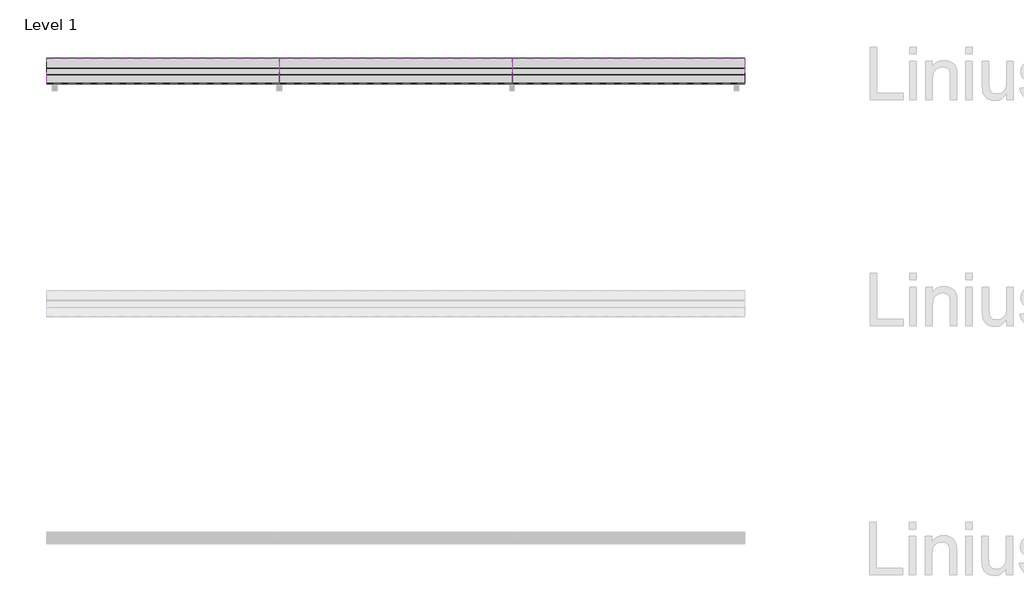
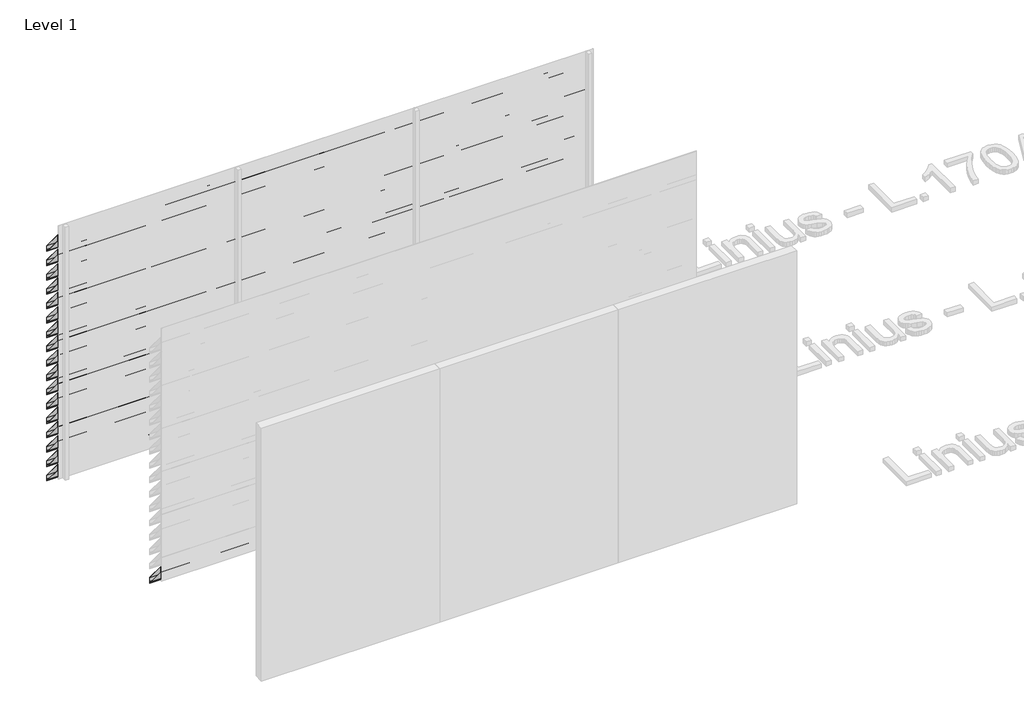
# One storey, part 35 of 121: 52 proxies.
"""IFC4 building model written with IfcOpenShell, lengths in millimetres."""

from ifc_helpers import new_model, si_unit, frame, origin, place, context, project, spatial, polyline, outline, extrude, element, save

model = new_model("IFC4")

# Units and contexts
model_context = context("Model", 3, world=origin())
ifc_project = project(units=[si_unit("LENGTHUNIT", "METRE", prefix="MILLI")], contexts=[model_context])

# Site, building, storey
site = spatial("IfcSite", under=ifc_project)
building = spatial("IfcBuilding", under=site)
storey = spatial("IfcBuildingStorey", under=building, Name="Level 1", Elevation=0.0)

# Proxies
placement = place(None, origin())
element("IfcBuildingElementProxy", 1, Name="Wall Sweeps", at=placement, inside=storey, context=model_context, shape_type="SweptSolid", body=[
    extrude(outline(polyline([(36705.0540136, 2631.0), (36705.0540136, 2562.0), (36702.5540136, 2563.1657691), (36702.5540136, 2576.7059843), (36685.8041465, 2596.6676986), (36675.1189071, 2596.6676986), (36483.0540136, 2825.5617253), (36483.0540136, 2890.0), (36487.7272091, 2890.0), (36705.0540136, 2631.0)]), holes=[polyline([(36486.8412246, 2888.1), (36484.9540136, 2888.1), (36484.9540136, 2826.2532688), (36676.0048916, 2598.5676986), (36686.6901311, 2598.5676986), (36703.1540136, 2578.9468074), (36703.1540136, 2630.3084566), (36486.8412246, 2888.1)])]), frame((466.6208097, 0.0, 0.0), z_axis=(1.0, 0.0, 0.0), x_axis=(0.0, 1.0, 0.0)), (0.0, 0.0, 1.0), 2000.0),
])
element("IfcBuildingElementProxy", 2, Name="Wall Sweeps", at=placement, inside=storey, context=model_context, shape_type="SweptSolid", body=[
    extrude(outline(polyline([(36705.0540136, 2461.0), (36705.0540136, 2392.0), (36702.5540136, 2393.1657691), (36702.5540136, 2406.7059843), (36685.8041465, 2426.6676986), (36675.1189071, 2426.6676986), (36483.0540136, 2655.5617253), (36483.0540136, 2720.0), (36487.7272091, 2720.0), (36705.0540136, 2461.0)]), holes=[polyline([(36486.8412246, 2718.1), (36484.9540136, 2718.1), (36484.9540136, 2656.2532688), (36676.0048916, 2428.5676986), (36686.6901311, 2428.5676986), (36703.1540136, 2408.9468074), (36703.1540136, 2460.3084566), (36486.8412246, 2718.1)])]), frame((466.6208097, 0.0, 0.0), z_axis=(1.0, 0.0, 0.0), x_axis=(0.0, 1.0, 0.0)), (0.0, 0.0, 1.0), 2000.0),
])
element("IfcBuildingElementProxy", 3, Name="Wall Sweeps", at=placement, inside=storey, context=model_context, shape_type="SweptSolid", body=[
    extrude(outline(polyline([(36705.0540136, 2291.0), (36705.0540136, 2222.0), (36702.5540136, 2223.1657691), (36702.5540136, 2236.7059843), (36685.8041465, 2256.6676986), (36675.1189071, 2256.6676986), (36483.0540136, 2485.5617253), (36483.0540136, 2550.0), (36487.7272091, 2550.0), (36705.0540136, 2291.0)]), holes=[polyline([(36486.8412246, 2548.1), (36484.9540136, 2548.1), (36484.9540136, 2486.2532688), (36676.0048916, 2258.5676986), (36686.6901311, 2258.5676986), (36703.1540136, 2238.9468074), (36703.1540136, 2290.3084566), (36486.8412246, 2548.1)])]), frame((466.6208097, 0.0, 0.0), z_axis=(1.0, 0.0, 0.0), x_axis=(0.0, 1.0, 0.0)), (0.0, 0.0, 1.0), 2000.0),
])
element("IfcBuildingElementProxy", 4, Name="Wall Sweeps", at=placement, inside=storey, context=model_context, shape_type="SweptSolid", body=[
    extrude(outline(polyline([(36705.0540136, 2121.0), (36705.0540136, 2052.0), (36702.5540136, 2053.1657691), (36702.5540136, 2066.7059843), (36685.8041465, 2086.6676986), (36675.1189071, 2086.6676986), (36483.0540136, 2315.5617253), (36483.0540136, 2380.0), (36487.7272091, 2380.0), (36705.0540136, 2121.0)]), holes=[polyline([(36486.8412246, 2378.1), (36484.9540136, 2378.1), (36484.9540136, 2316.2532688), (36676.0048916, 2088.5676986), (36686.6901311, 2088.5676986), (36703.1540136, 2068.9468074), (36703.1540136, 2120.3084566), (36486.8412246, 2378.1)])]), frame((466.6208097, 0.0, 0.0), z_axis=(1.0, 0.0, 0.0), x_axis=(0.0, 1.0, 0.0)), (0.0, 0.0, 1.0), 2000.0),
])
element("IfcBuildingElementProxy", 5, Name="Wall Sweeps", at=placement, inside=storey, context=model_context, shape_type="SweptSolid", body=[
    extrude(outline(polyline([(36705.0540136, 1951.0), (36705.0540136, 1882.0), (36702.5540136, 1883.1657691), (36702.5540136, 1896.7059843), (36685.8041465, 1916.6676986), (36675.1189071, 1916.6676986), (36483.0540136, 2145.5617253), (36483.0540136, 2210.0), (36487.7272091, 2210.0), (36705.0540136, 1951.0)]), holes=[polyline([(36486.8412246, 2208.1), (36484.9540136, 2208.1), (36484.9540136, 2146.2532688), (36676.0048916, 1918.5676986), (36686.6901311, 1918.5676986), (36703.1540136, 1898.9468074), (36703.1540136, 1950.3084566), (36486.8412246, 2208.1)])]), frame((466.6208097, 0.0, 0.0), z_axis=(1.0, 0.0, 0.0), x_axis=(0.0, 1.0, 0.0)), (0.0, 0.0, 1.0), 2000.0),
])
element("IfcBuildingElementProxy", 6, Name="Wall Sweeps", at=placement, inside=storey, context=model_context, shape_type="SweptSolid", body=[
    extrude(outline(polyline([(36705.0540136, 1781.0), (36705.0540136, 1712.0), (36702.5540136, 1713.1657691), (36702.5540136, 1726.7059843), (36685.8041465, 1746.6676986), (36675.1189071, 1746.6676986), (36483.0540136, 1975.5617253), (36483.0540136, 2040.0), (36487.7272091, 2040.0), (36705.0540136, 1781.0)]), holes=[polyline([(36486.8412246, 2038.1), (36484.9540136, 2038.1), (36484.9540136, 1976.2532688), (36676.0048916, 1748.5676986), (36686.6901311, 1748.5676986), (36703.1540136, 1728.9468074), (36703.1540136, 1780.3084566), (36486.8412246, 2038.1)])]), frame((466.6208097, 0.0, 0.0), z_axis=(1.0, 0.0, 0.0), x_axis=(0.0, 1.0, 0.0)), (0.0, 0.0, 1.0), 2000.0),
])
element("IfcBuildingElementProxy", 7, Name="Wall Sweeps", at=placement, inside=storey, context=model_context, shape_type="SweptSolid", body=[
    extrude(outline(polyline([(36705.0540136, 1611.0), (36705.0540136, 1542.0), (36702.5540136, 1543.1657691), (36702.5540136, 1556.7059843), (36685.8041465, 1576.6676986), (36675.1189071, 1576.6676986), (36483.0540136, 1805.5617253), (36483.0540136, 1870.0), (36487.7272091, 1870.0), (36705.0540136, 1611.0)]), holes=[polyline([(36486.8412246, 1868.1), (36484.9540136, 1868.1), (36484.9540136, 1806.2532688), (36676.0048916, 1578.5676986), (36686.6901311, 1578.5676986), (36703.1540136, 1558.9468074), (36703.1540136, 1610.3084566), (36486.8412246, 1868.1)])]), frame((466.6208097, 0.0, 0.0), z_axis=(1.0, 0.0, 0.0), x_axis=(0.0, 1.0, 0.0)), (0.0, 0.0, 1.0), 2000.0),
])
element("IfcBuildingElementProxy", 8, Name="Wall Sweeps", at=placement, inside=storey, context=model_context, shape_type="SweptSolid", body=[
    extrude(outline(polyline([(36705.0540136, 1441.0), (36705.0540136, 1372.0), (36702.5540136, 1373.1657691), (36702.5540136, 1386.7059843), (36685.8041465, 1406.6676986), (36675.1189071, 1406.6676986), (36483.0540136, 1635.5617253), (36483.0540136, 1700.0), (36487.7272091, 1700.0), (36705.0540136, 1441.0)]), holes=[polyline([(36486.8412246, 1698.1), (36484.9540136, 1698.1), (36484.9540136, 1636.2532688), (36676.0048916, 1408.5676986), (36686.6901311, 1408.5676986), (36703.1540136, 1388.9468074), (36703.1540136, 1440.3084566), (36486.8412246, 1698.1)])]), frame((466.6208097, 0.0, 0.0), z_axis=(1.0, 0.0, 0.0), x_axis=(0.0, 1.0, 0.0)), (0.0, 0.0, 1.0), 2000.0),
])
element("IfcBuildingElementProxy", 9, Name="Wall Sweeps", at=placement, inside=storey, context=model_context, shape_type="SweptSolid", body=[
    extrude(outline(polyline([(36705.0540136, 1271.0), (36705.0540136, 1202.0), (36702.5540136, 1203.1657691), (36702.5540136, 1216.7059843), (36685.8041465, 1236.6676986), (36675.1189071, 1236.6676986), (36483.0540136, 1465.5617253), (36483.0540136, 1530.0), (36487.7272091, 1530.0), (36705.0540136, 1271.0)]), holes=[polyline([(36486.8412246, 1528.1), (36484.9540136, 1528.1), (36484.9540136, 1466.2532688), (36676.0048916, 1238.5676986), (36686.6901311, 1238.5676986), (36703.1540136, 1218.9468074), (36703.1540136, 1270.3084566), (36486.8412246, 1528.1)])]), frame((466.6208097, 0.0, 0.0), z_axis=(1.0, 0.0, 0.0), x_axis=(0.0, 1.0, 0.0)), (0.0, 0.0, 1.0), 2000.0),
])
element("IfcBuildingElementProxy", 10, Name="Wall Sweeps", at=placement, inside=storey, context=model_context, shape_type="SweptSolid", body=[
    extrude(outline(polyline([(36705.0540136, 1101.0), (36705.0540136, 1032.0), (36702.5540136, 1033.1657691), (36702.5540136, 1046.7059843), (36685.8041465, 1066.6676986), (36675.1189071, 1066.6676986), (36483.0540136, 1295.5617253), (36483.0540136, 1360.0), (36487.7272091, 1360.0), (36705.0540136, 1101.0)]), holes=[polyline([(36486.8412246, 1358.1), (36484.9540136, 1358.1), (36484.9540136, 1296.2532688), (36676.0048916, 1068.5676986), (36686.6901311, 1068.5676986), (36703.1540136, 1048.9468074), (36703.1540136, 1100.3084566), (36486.8412246, 1358.1)])]), frame((466.6208097, 0.0, 0.0), z_axis=(1.0, 0.0, 0.0), x_axis=(0.0, 1.0, 0.0)), (0.0, 0.0, 1.0), 2000.0),
])
element("IfcBuildingElementProxy", 11, Name="Wall Sweeps", at=placement, inside=storey, context=model_context, shape_type="SweptSolid", body=[
    extrude(outline(polyline([(36705.0540136, 931.0), (36705.0540136, 862.0), (36702.5540136, 863.1657691), (36702.5540136, 876.7059843), (36685.8041465, 896.6676986), (36675.1189071, 896.6676986), (36483.0540136, 1125.5617253), (36483.0540136, 1190.0), (36487.7272091, 1190.0), (36705.0540136, 931.0)]), holes=[polyline([(36486.8412246, 1188.1), (36484.9540136, 1188.1), (36484.9540136, 1126.2532688), (36676.0048916, 898.5676986), (36686.6901311, 898.5676986), (36703.1540136, 878.9468074), (36703.1540136, 930.3084566), (36486.8412246, 1188.1)])]), frame((466.6208097, 0.0, 0.0), z_axis=(1.0, 0.0, 0.0), x_axis=(0.0, 1.0, 0.0)), (0.0, 0.0, 1.0), 2000.0),
])
element("IfcBuildingElementProxy", 12, Name="Wall Sweeps", at=placement, inside=storey, context=model_context, shape_type="SweptSolid", body=[
    extrude(outline(polyline([(36705.0540136, 761.0), (36705.0540136, 692.0), (36702.5540136, 693.1657691), (36702.5540136, 706.7059843), (36685.8041465, 726.6676986), (36675.1189071, 726.6676986), (36483.0540136, 955.5617253), (36483.0540136, 1020.0), (36487.7272091, 1020.0), (36705.0540136, 761.0)]), holes=[polyline([(36486.8412246, 1018.1), (36484.9540136, 1018.1), (36484.9540136, 956.2532688), (36676.0048916, 728.5676986), (36686.6901311, 728.5676986), (36703.1540136, 708.9468074), (36703.1540136, 760.3084566), (36486.8412246, 1018.1)])]), frame((466.6208097, 0.0, 0.0), z_axis=(1.0, 0.0, 0.0), x_axis=(0.0, 1.0, 0.0)), (0.0, 0.0, 1.0), 2000.0),
])
element("IfcBuildingElementProxy", 13, Name="Wall Sweeps", at=placement, inside=storey, context=model_context, shape_type="SweptSolid", body=[
    extrude(outline(polyline([(36705.0540136, 591.0), (36705.0540136, 522.0), (36702.5540136, 523.1657691), (36702.5540136, 536.7059843), (36685.8041465, 556.6676986), (36675.1189071, 556.6676986), (36483.0540136, 785.5617253), (36483.0540136, 850.0), (36487.7272091, 850.0), (36705.0540136, 591.0)]), holes=[polyline([(36486.8412246, 848.1), (36484.9540136, 848.1), (36484.9540136, 786.2532688), (36676.0048916, 558.5676986), (36686.6901311, 558.5676986), (36703.1540136, 538.9468074), (36703.1540136, 590.3084566), (36486.8412246, 848.1)])]), frame((466.6208097, 0.0, 0.0), z_axis=(1.0, 0.0, 0.0), x_axis=(0.0, 1.0, 0.0)), (0.0, 0.0, 1.0), 2000.0),
])
element("IfcBuildingElementProxy", 14, Name="Wall Sweeps", at=placement, inside=storey, context=model_context, shape_type="SweptSolid", body=[
    extrude(outline(polyline([(36705.0540136, 421.0), (36705.0540136, 352.0), (36702.5540136, 353.1657691), (36702.5540136, 366.7059843), (36685.8041465, 386.6676986), (36675.1189071, 386.6676986), (36483.0540136, 615.5617253), (36483.0540136, 680.0), (36487.7272091, 680.0), (36705.0540136, 421.0)]), holes=[polyline([(36486.8412246, 678.1), (36484.9540136, 678.1), (36484.9540136, 616.2532688), (36676.0048916, 388.5676986), (36686.6901311, 388.5676986), (36703.1540136, 368.9468074), (36703.1540136, 420.3084566), (36486.8412246, 678.1)])]), frame((466.6208097, 0.0, 0.0), z_axis=(1.0, 0.0, 0.0), x_axis=(0.0, 1.0, 0.0)), (0.0, 0.0, 1.0), 2000.0),
])
element("IfcBuildingElementProxy", 15, Name="Wall Sweeps", at=placement, inside=storey, context=model_context, shape_type="SweptSolid", body=[
    extrude(outline(polyline([(36705.0540136, 251.0), (36705.0540136, 182.0), (36702.5540136, 183.1657691), (36702.5540136, 196.7059843), (36685.8041465, 216.6676986), (36675.1189071, 216.6676986), (36483.0540136, 445.5617253), (36483.0540136, 510.0), (36487.7272091, 510.0), (36705.0540136, 251.0)]), holes=[polyline([(36486.8412246, 508.1), (36484.9540136, 508.1), (36484.9540136, 446.2532688), (36676.0048916, 218.5676986), (36686.6901311, 218.5676986), (36703.1540136, 198.9468074), (36703.1540136, 250.3084566), (36486.8412246, 508.1)])]), frame((466.6208097, 0.0, 0.0), z_axis=(1.0, 0.0, 0.0), x_axis=(0.0, 1.0, 0.0)), (0.0, 0.0, 1.0), 2000.0),
])
element("IfcBuildingElementProxy", 16, Name="Wall Sweeps", at=placement, inside=storey, context=model_context, shape_type="SweptSolid", body=[
    extrude(outline(polyline([(36705.0540136, 81.0), (36705.0540136, 12.0), (36702.5540136, 13.1657691), (36702.5540136, 26.7059843), (36685.8041465, 46.6676986), (36675.1189071, 46.6676986), (36483.0540136, 275.5617253), (36483.0540136, 340.0), (36487.7272091, 340.0), (36705.0540136, 81.0)]), holes=[polyline([(36486.8412246, 338.1), (36484.9540136, 338.1), (36484.9540136, 276.2532688), (36676.0048916, 48.5676986), (36686.6901311, 48.5676986), (36703.1540136, 28.9468074), (36703.1540136, 80.3084566), (36486.8412246, 338.1)])]), frame((466.6208097, 0.0, 0.0), z_axis=(1.0, 0.0, 0.0), x_axis=(0.0, 1.0, 0.0)), (0.0, 0.0, 1.0), 2000.0),
])
element("IfcBuildingElementProxy", 17, Name="Wall Sweeps", at=placement, inside=storey, context=model_context, shape_type="SweptSolid", body=[
    extrude(outline(polyline([(36705.0540136, -89.0), (36705.0540136, -158.0), (36702.5540136, -156.8342309), (36702.5540136, -143.2940157), (36685.8041465, -123.3323014), (36675.1189071, -123.3323014), (36483.0540136, 105.5617253), (36483.0540136, 170.0), (36487.7272091, 170.0), (36705.0540136, -89.0)]), holes=[polyline([(36486.8412246, 168.1), (36484.9540136, 168.1), (36484.9540136, 106.2532688), (36676.0048916, -121.4323014), (36686.6901311, -121.4323014), (36703.1540136, -141.0531926), (36703.1540136, -89.6915434), (36486.8412246, 168.1)])]), frame((466.6208097, 0.0, 0.0), z_axis=(1.0, 0.0, 0.0), x_axis=(0.0, 1.0, 0.0)), (0.0, 0.0, 1.0), 2000.0),
])
element("IfcBuildingElementProxy", 18, Name="Wall Sweeps", at=placement, inside=storey, context=model_context, shape_type="SweptSolid", body=[
    extrude(outline(polyline([(36705.0540136, 2631.0), (36705.0540136, 2562.0), (36702.5540136, 2563.1657691), (36702.5540136, 2576.7059843), (36685.8041465, 2596.6676986), (36675.1189071, 2596.6676986), (36483.0540136, 2825.5617253), (36483.0540136, 2890.0), (36487.7272091, 2890.0), (36705.0540136, 2631.0)]), holes=[polyline([(36486.8412246, 2888.1), (36484.9540136, 2888.1), (36484.9540136, 2826.2532688), (36676.0048916, 2598.5676986), (36686.6901311, 2598.5676986), (36703.1540136, 2578.9468074), (36703.1540136, 2630.3084566), (36486.8412246, 2888.1)])]), frame((2466.6208097, 0.0, 0.0), z_axis=(1.0, 0.0, 0.0), x_axis=(0.0, 1.0, 0.0)), (0.0, 0.0, 1.0), 2000.0),
])
element("IfcBuildingElementProxy", 19, Name="Wall Sweeps", at=placement, inside=storey, context=model_context, shape_type="SweptSolid", body=[
    extrude(outline(polyline([(36705.0540136, 2461.0), (36705.0540136, 2392.0), (36702.5540136, 2393.1657691), (36702.5540136, 2406.7059843), (36685.8041465, 2426.6676986), (36675.1189071, 2426.6676986), (36483.0540136, 2655.5617253), (36483.0540136, 2720.0), (36487.7272091, 2720.0), (36705.0540136, 2461.0)]), holes=[polyline([(36486.8412246, 2718.1), (36484.9540136, 2718.1), (36484.9540136, 2656.2532688), (36676.0048916, 2428.5676986), (36686.6901311, 2428.5676986), (36703.1540136, 2408.9468074), (36703.1540136, 2460.3084566), (36486.8412246, 2718.1)])]), frame((2466.6208097, 0.0, 0.0), z_axis=(1.0, 0.0, 0.0), x_axis=(0.0, 1.0, 0.0)), (0.0, 0.0, 1.0), 2000.0),
])
element("IfcBuildingElementProxy", 20, Name="Wall Sweeps", at=placement, inside=storey, context=model_context, shape_type="SweptSolid", body=[
    extrude(outline(polyline([(36705.0540136, 2291.0), (36705.0540136, 2222.0), (36702.5540136, 2223.1657691), (36702.5540136, 2236.7059843), (36685.8041465, 2256.6676986), (36675.1189071, 2256.6676986), (36483.0540136, 2485.5617253), (36483.0540136, 2550.0), (36487.7272091, 2550.0), (36705.0540136, 2291.0)]), holes=[polyline([(36486.8412246, 2548.1), (36484.9540136, 2548.1), (36484.9540136, 2486.2532688), (36676.0048916, 2258.5676986), (36686.6901311, 2258.5676986), (36703.1540136, 2238.9468074), (36703.1540136, 2290.3084566), (36486.8412246, 2548.1)])]), frame((2466.6208097, 0.0, 0.0), z_axis=(1.0, 0.0, 0.0), x_axis=(0.0, 1.0, 0.0)), (0.0, 0.0, 1.0), 2000.0),
])
element("IfcBuildingElementProxy", 21, Name="Wall Sweeps", at=placement, inside=storey, context=model_context, shape_type="SweptSolid", body=[
    extrude(outline(polyline([(36705.0540136, 2121.0), (36705.0540136, 2052.0), (36702.5540136, 2053.1657691), (36702.5540136, 2066.7059843), (36685.8041465, 2086.6676986), (36675.1189071, 2086.6676986), (36483.0540136, 2315.5617253), (36483.0540136, 2380.0), (36487.7272091, 2380.0), (36705.0540136, 2121.0)]), holes=[polyline([(36486.8412246, 2378.1), (36484.9540136, 2378.1), (36484.9540136, 2316.2532688), (36676.0048916, 2088.5676986), (36686.6901311, 2088.5676986), (36703.1540136, 2068.9468074), (36703.1540136, 2120.3084566), (36486.8412246, 2378.1)])]), frame((2466.6208097, 0.0, 0.0), z_axis=(1.0, 0.0, 0.0), x_axis=(0.0, 1.0, 0.0)), (0.0, 0.0, 1.0), 2000.0),
])
element("IfcBuildingElementProxy", 22, Name="Wall Sweeps", at=placement, inside=storey, context=model_context, shape_type="SweptSolid", body=[
    extrude(outline(polyline([(36705.0540136, 1951.0), (36705.0540136, 1882.0), (36702.5540136, 1883.1657691), (36702.5540136, 1896.7059843), (36685.8041465, 1916.6676986), (36675.1189071, 1916.6676986), (36483.0540136, 2145.5617253), (36483.0540136, 2210.0), (36487.7272091, 2210.0), (36705.0540136, 1951.0)]), holes=[polyline([(36486.8412246, 2208.1), (36484.9540136, 2208.1), (36484.9540136, 2146.2532688), (36676.0048916, 1918.5676986), (36686.6901311, 1918.5676986), (36703.1540136, 1898.9468074), (36703.1540136, 1950.3084566), (36486.8412246, 2208.1)])]), frame((2466.6208097, 0.0, 0.0), z_axis=(1.0, 0.0, 0.0), x_axis=(0.0, 1.0, 0.0)), (0.0, 0.0, 1.0), 2000.0),
])
element("IfcBuildingElementProxy", 23, Name="Wall Sweeps", at=placement, inside=storey, context=model_context, shape_type="SweptSolid", body=[
    extrude(outline(polyline([(36705.0540136, 1781.0), (36705.0540136, 1712.0), (36702.5540136, 1713.1657691), (36702.5540136, 1726.7059843), (36685.8041465, 1746.6676986), (36675.1189071, 1746.6676986), (36483.0540136, 1975.5617253), (36483.0540136, 2040.0), (36487.7272091, 2040.0), (36705.0540136, 1781.0)]), holes=[polyline([(36486.8412246, 2038.1), (36484.9540136, 2038.1), (36484.9540136, 1976.2532688), (36676.0048916, 1748.5676986), (36686.6901311, 1748.5676986), (36703.1540136, 1728.9468074), (36703.1540136, 1780.3084566), (36486.8412246, 2038.1)])]), frame((2466.6208097, 0.0, 0.0), z_axis=(1.0, 0.0, 0.0), x_axis=(0.0, 1.0, 0.0)), (0.0, 0.0, 1.0), 2000.0),
])
element("IfcBuildingElementProxy", 24, Name="Wall Sweeps", at=placement, inside=storey, context=model_context, shape_type="SweptSolid", body=[
    extrude(outline(polyline([(36705.0540136, 1611.0), (36705.0540136, 1542.0), (36702.5540136, 1543.1657691), (36702.5540136, 1556.7059843), (36685.8041465, 1576.6676986), (36675.1189071, 1576.6676986), (36483.0540136, 1805.5617253), (36483.0540136, 1870.0), (36487.7272091, 1870.0), (36705.0540136, 1611.0)]), holes=[polyline([(36486.8412246, 1868.1), (36484.9540136, 1868.1), (36484.9540136, 1806.2532688), (36676.0048916, 1578.5676986), (36686.6901311, 1578.5676986), (36703.1540136, 1558.9468074), (36703.1540136, 1610.3084566), (36486.8412246, 1868.1)])]), frame((2466.6208097, 0.0, 0.0), z_axis=(1.0, 0.0, 0.0), x_axis=(0.0, 1.0, 0.0)), (0.0, 0.0, 1.0), 2000.0),
])
element("IfcBuildingElementProxy", 25, Name="Wall Sweeps", at=placement, inside=storey, context=model_context, shape_type="SweptSolid", body=[
    extrude(outline(polyline([(36705.0540136, 1441.0), (36705.0540136, 1372.0), (36702.5540136, 1373.1657691), (36702.5540136, 1386.7059843), (36685.8041465, 1406.6676986), (36675.1189071, 1406.6676986), (36483.0540136, 1635.5617253), (36483.0540136, 1700.0), (36487.7272091, 1700.0), (36705.0540136, 1441.0)]), holes=[polyline([(36486.8412246, 1698.1), (36484.9540136, 1698.1), (36484.9540136, 1636.2532688), (36676.0048916, 1408.5676986), (36686.6901311, 1408.5676986), (36703.1540136, 1388.9468074), (36703.1540136, 1440.3084566), (36486.8412246, 1698.1)])]), frame((2466.6208097, 0.0, 0.0), z_axis=(1.0, 0.0, 0.0), x_axis=(0.0, 1.0, 0.0)), (0.0, 0.0, 1.0), 2000.0),
])
element("IfcBuildingElementProxy", 26, Name="Wall Sweeps", at=placement, inside=storey, context=model_context, shape_type="SweptSolid", body=[
    extrude(outline(polyline([(36705.0540136, 1271.0), (36705.0540136, 1202.0), (36702.5540136, 1203.1657691), (36702.5540136, 1216.7059843), (36685.8041465, 1236.6676986), (36675.1189071, 1236.6676986), (36483.0540136, 1465.5617253), (36483.0540136, 1530.0), (36487.7272091, 1530.0), (36705.0540136, 1271.0)]), holes=[polyline([(36486.8412246, 1528.1), (36484.9540136, 1528.1), (36484.9540136, 1466.2532688), (36676.0048916, 1238.5676986), (36686.6901311, 1238.5676986), (36703.1540136, 1218.9468074), (36703.1540136, 1270.3084566), (36486.8412246, 1528.1)])]), frame((2466.6208097, 0.0, 0.0), z_axis=(1.0, 0.0, 0.0), x_axis=(0.0, 1.0, 0.0)), (0.0, 0.0, 1.0), 2000.0),
])
element("IfcBuildingElementProxy", 27, Name="Wall Sweeps", at=placement, inside=storey, context=model_context, shape_type="SweptSolid", body=[
    extrude(outline(polyline([(36705.0540136, 1101.0), (36705.0540136, 1032.0), (36702.5540136, 1033.1657691), (36702.5540136, 1046.7059843), (36685.8041465, 1066.6676986), (36675.1189071, 1066.6676986), (36483.0540136, 1295.5617253), (36483.0540136, 1360.0), (36487.7272091, 1360.0), (36705.0540136, 1101.0)]), holes=[polyline([(36486.8412246, 1358.1), (36484.9540136, 1358.1), (36484.9540136, 1296.2532688), (36676.0048916, 1068.5676986), (36686.6901311, 1068.5676986), (36703.1540136, 1048.9468074), (36703.1540136, 1100.3084566), (36486.8412246, 1358.1)])]), frame((2466.6208097, 0.0, 0.0), z_axis=(1.0, 0.0, 0.0), x_axis=(0.0, 1.0, 0.0)), (0.0, 0.0, 1.0), 2000.0),
])
element("IfcBuildingElementProxy", 28, Name="Wall Sweeps", at=placement, inside=storey, context=model_context, shape_type="SweptSolid", body=[
    extrude(outline(polyline([(36705.0540136, 931.0), (36705.0540136, 862.0), (36702.5540136, 863.1657691), (36702.5540136, 876.7059843), (36685.8041465, 896.6676986), (36675.1189071, 896.6676986), (36483.0540136, 1125.5617253), (36483.0540136, 1190.0), (36487.7272091, 1190.0), (36705.0540136, 931.0)]), holes=[polyline([(36486.8412246, 1188.1), (36484.9540136, 1188.1), (36484.9540136, 1126.2532688), (36676.0048916, 898.5676986), (36686.6901311, 898.5676986), (36703.1540136, 878.9468074), (36703.1540136, 930.3084566), (36486.8412246, 1188.1)])]), frame((2466.6208097, 0.0, 0.0), z_axis=(1.0, 0.0, 0.0), x_axis=(0.0, 1.0, 0.0)), (0.0, 0.0, 1.0), 2000.0),
])
element("IfcBuildingElementProxy", 29, Name="Wall Sweeps", at=placement, inside=storey, context=model_context, shape_type="SweptSolid", body=[
    extrude(outline(polyline([(36705.0540136, 761.0), (36705.0540136, 692.0), (36702.5540136, 693.1657691), (36702.5540136, 706.7059843), (36685.8041465, 726.6676986), (36675.1189071, 726.6676986), (36483.0540136, 955.5617253), (36483.0540136, 1020.0), (36487.7272091, 1020.0), (36705.0540136, 761.0)]), holes=[polyline([(36486.8412246, 1018.1), (36484.9540136, 1018.1), (36484.9540136, 956.2532688), (36676.0048916, 728.5676986), (36686.6901311, 728.5676986), (36703.1540136, 708.9468074), (36703.1540136, 760.3084566), (36486.8412246, 1018.1)])]), frame((2466.6208097, 0.0, 0.0), z_axis=(1.0, 0.0, 0.0), x_axis=(0.0, 1.0, 0.0)), (0.0, 0.0, 1.0), 2000.0),
])
element("IfcBuildingElementProxy", 30, Name="Wall Sweeps", at=placement, inside=storey, context=model_context, shape_type="SweptSolid", body=[
    extrude(outline(polyline([(36705.0540136, 591.0), (36705.0540136, 522.0), (36702.5540136, 523.1657691), (36702.5540136, 536.7059843), (36685.8041465, 556.6676986), (36675.1189071, 556.6676986), (36483.0540136, 785.5617253), (36483.0540136, 850.0), (36487.7272091, 850.0), (36705.0540136, 591.0)]), holes=[polyline([(36486.8412246, 848.1), (36484.9540136, 848.1), (36484.9540136, 786.2532688), (36676.0048916, 558.5676986), (36686.6901311, 558.5676986), (36703.1540136, 538.9468074), (36703.1540136, 590.3084566), (36486.8412246, 848.1)])]), frame((2466.6208097, 0.0, 0.0), z_axis=(1.0, 0.0, 0.0), x_axis=(0.0, 1.0, 0.0)), (0.0, 0.0, 1.0), 2000.0),
])
element("IfcBuildingElementProxy", 31, Name="Wall Sweeps", at=placement, inside=storey, context=model_context, shape_type="SweptSolid", body=[
    extrude(outline(polyline([(36705.0540136, 421.0), (36705.0540136, 352.0), (36702.5540136, 353.1657691), (36702.5540136, 366.7059843), (36685.8041465, 386.6676986), (36675.1189071, 386.6676986), (36483.0540136, 615.5617253), (36483.0540136, 680.0), (36487.7272091, 680.0), (36705.0540136, 421.0)]), holes=[polyline([(36486.8412246, 678.1), (36484.9540136, 678.1), (36484.9540136, 616.2532688), (36676.0048916, 388.5676986), (36686.6901311, 388.5676986), (36703.1540136, 368.9468074), (36703.1540136, 420.3084566), (36486.8412246, 678.1)])]), frame((2466.6208097, 0.0, 0.0), z_axis=(1.0, 0.0, 0.0), x_axis=(0.0, 1.0, 0.0)), (0.0, 0.0, 1.0), 2000.0),
])
element("IfcBuildingElementProxy", 32, Name="Wall Sweeps", at=placement, inside=storey, context=model_context, shape_type="SweptSolid", body=[
    extrude(outline(polyline([(36705.0540136, 251.0), (36705.0540136, 182.0), (36702.5540136, 183.1657691), (36702.5540136, 196.7059843), (36685.8041465, 216.6676986), (36675.1189071, 216.6676986), (36483.0540136, 445.5617253), (36483.0540136, 510.0), (36487.7272091, 510.0), (36705.0540136, 251.0)]), holes=[polyline([(36486.8412246, 508.1), (36484.9540136, 508.1), (36484.9540136, 446.2532688), (36676.0048916, 218.5676986), (36686.6901311, 218.5676986), (36703.1540136, 198.9468074), (36703.1540136, 250.3084566), (36486.8412246, 508.1)])]), frame((2466.6208097, 0.0, 0.0), z_axis=(1.0, 0.0, 0.0), x_axis=(0.0, 1.0, 0.0)), (0.0, 0.0, 1.0), 2000.0),
])
element("IfcBuildingElementProxy", 33, Name="Wall Sweeps", at=placement, inside=storey, context=model_context, shape_type="SweptSolid", body=[
    extrude(outline(polyline([(36705.0540136, 81.0), (36705.0540136, 12.0), (36702.5540136, 13.1657691), (36702.5540136, 26.7059843), (36685.8041465, 46.6676986), (36675.1189071, 46.6676986), (36483.0540136, 275.5617253), (36483.0540136, 340.0), (36487.7272091, 340.0), (36705.0540136, 81.0)]), holes=[polyline([(36486.8412246, 338.1), (36484.9540136, 338.1), (36484.9540136, 276.2532688), (36676.0048916, 48.5676986), (36686.6901311, 48.5676986), (36703.1540136, 28.9468074), (36703.1540136, 80.3084566), (36486.8412246, 338.1)])]), frame((2466.6208097, 0.0, 0.0), z_axis=(1.0, 0.0, 0.0), x_axis=(0.0, 1.0, 0.0)), (0.0, 0.0, 1.0), 2000.0),
])
element("IfcBuildingElementProxy", 34, Name="Wall Sweeps", at=placement, inside=storey, context=model_context, shape_type="SweptSolid", body=[
    extrude(outline(polyline([(36705.0540136, -89.0), (36705.0540136, -158.0), (36702.5540136, -156.8342309), (36702.5540136, -143.2940157), (36685.8041465, -123.3323014), (36675.1189071, -123.3323014), (36483.0540136, 105.5617253), (36483.0540136, 170.0), (36487.7272091, 170.0), (36705.0540136, -89.0)]), holes=[polyline([(36486.8412246, 168.1), (36484.9540136, 168.1), (36484.9540136, 106.2532688), (36676.0048916, -121.4323014), (36686.6901311, -121.4323014), (36703.1540136, -141.0531926), (36703.1540136, -89.6915434), (36486.8412246, 168.1)])]), frame((2466.6208097, 0.0, 0.0), z_axis=(1.0, 0.0, 0.0), x_axis=(0.0, 1.0, 0.0)), (0.0, 0.0, 1.0), 2000.0),
])
element("IfcBuildingElementProxy", 35, Name="Wall Sweeps", at=placement, inside=storey, context=model_context, shape_type="SweptSolid", body=[
    extrude(outline(polyline([(36705.0540136, 2631.0), (36705.0540136, 2562.0), (36702.5540136, 2563.1657691), (36702.5540136, 2576.7059843), (36685.8041465, 2596.6676986), (36675.1189071, 2596.6676986), (36483.0540136, 2825.5617253), (36483.0540136, 2890.0), (36487.7272091, 2890.0), (36705.0540136, 2631.0)]), holes=[polyline([(36486.8412246, 2888.1), (36484.9540136, 2888.1), (36484.9540136, 2826.2532688), (36676.0048916, 2598.5676986), (36686.6901311, 2598.5676986), (36703.1540136, 2578.9468074), (36703.1540136, 2630.3084566), (36486.8412246, 2888.1)])]), frame((4466.6208097, 0.0, 0.0), z_axis=(1.0, 0.0, 0.0), x_axis=(0.0, 1.0, 0.0)), (0.0, 0.0, 1.0), 2000.0),
])
element("IfcBuildingElementProxy", 36, Name="Wall Sweeps", at=placement, inside=storey, context=model_context, shape_type="SweptSolid", body=[
    extrude(outline(polyline([(36705.0540136, 2461.0), (36705.0540136, 2392.0), (36702.5540136, 2393.1657691), (36702.5540136, 2406.7059843), (36685.8041465, 2426.6676986), (36675.1189071, 2426.6676986), (36483.0540136, 2655.5617253), (36483.0540136, 2720.0), (36487.7272091, 2720.0), (36705.0540136, 2461.0)]), holes=[polyline([(36486.8412246, 2718.1), (36484.9540136, 2718.1), (36484.9540136, 2656.2532688), (36676.0048916, 2428.5676986), (36686.6901311, 2428.5676986), (36703.1540136, 2408.9468074), (36703.1540136, 2460.3084566), (36486.8412246, 2718.1)])]), frame((4466.6208097, 0.0, 0.0), z_axis=(1.0, 0.0, 0.0), x_axis=(0.0, 1.0, 0.0)), (0.0, 0.0, 1.0), 2000.0),
])
element("IfcBuildingElementProxy", 37, Name="Wall Sweeps", at=placement, inside=storey, context=model_context, shape_type="SweptSolid", body=[
    extrude(outline(polyline([(36705.0540136, 2291.0), (36705.0540136, 2222.0), (36702.5540136, 2223.1657691), (36702.5540136, 2236.7059843), (36685.8041465, 2256.6676986), (36675.1189071, 2256.6676986), (36483.0540136, 2485.5617253), (36483.0540136, 2550.0), (36487.7272091, 2550.0), (36705.0540136, 2291.0)]), holes=[polyline([(36486.8412246, 2548.1), (36484.9540136, 2548.1), (36484.9540136, 2486.2532688), (36676.0048916, 2258.5676986), (36686.6901311, 2258.5676986), (36703.1540136, 2238.9468074), (36703.1540136, 2290.3084566), (36486.8412246, 2548.1)])]), frame((4466.6208097, 0.0, 0.0), z_axis=(1.0, 0.0, 0.0), x_axis=(0.0, 1.0, 0.0)), (0.0, 0.0, 1.0), 2000.0),
])
element("IfcBuildingElementProxy", 38, Name="Wall Sweeps", at=placement, inside=storey, context=model_context, shape_type="SweptSolid", body=[
    extrude(outline(polyline([(36705.0540136, 2121.0), (36705.0540136, 2052.0), (36702.5540136, 2053.1657691), (36702.5540136, 2066.7059843), (36685.8041465, 2086.6676986), (36675.1189071, 2086.6676986), (36483.0540136, 2315.5617253), (36483.0540136, 2380.0), (36487.7272091, 2380.0), (36705.0540136, 2121.0)]), holes=[polyline([(36486.8412246, 2378.1), (36484.9540136, 2378.1), (36484.9540136, 2316.2532688), (36676.0048916, 2088.5676986), (36686.6901311, 2088.5676986), (36703.1540136, 2068.9468074), (36703.1540136, 2120.3084566), (36486.8412246, 2378.1)])]), frame((4466.6208097, 0.0, 0.0), z_axis=(1.0, 0.0, 0.0), x_axis=(0.0, 1.0, 0.0)), (0.0, 0.0, 1.0), 2000.0),
])
element("IfcBuildingElementProxy", 39, Name="Wall Sweeps", at=placement, inside=storey, context=model_context, shape_type="SweptSolid", body=[
    extrude(outline(polyline([(36705.0540136, 1951.0), (36705.0540136, 1882.0), (36702.5540136, 1883.1657691), (36702.5540136, 1896.7059843), (36685.8041465, 1916.6676986), (36675.1189071, 1916.6676986), (36483.0540136, 2145.5617253), (36483.0540136, 2210.0), (36487.7272091, 2210.0), (36705.0540136, 1951.0)]), holes=[polyline([(36486.8412246, 2208.1), (36484.9540136, 2208.1), (36484.9540136, 2146.2532688), (36676.0048916, 1918.5676986), (36686.6901311, 1918.5676986), (36703.1540136, 1898.9468074), (36703.1540136, 1950.3084566), (36486.8412246, 2208.1)])]), frame((4466.6208097, 0.0, 0.0), z_axis=(1.0, 0.0, 0.0), x_axis=(0.0, 1.0, 0.0)), (0.0, 0.0, 1.0), 2000.0),
])
element("IfcBuildingElementProxy", 40, Name="Wall Sweeps", at=placement, inside=storey, context=model_context, shape_type="SweptSolid", body=[
    extrude(outline(polyline([(36705.0540136, 1781.0), (36705.0540136, 1712.0), (36702.5540136, 1713.1657691), (36702.5540136, 1726.7059843), (36685.8041465, 1746.6676986), (36675.1189071, 1746.6676986), (36483.0540136, 1975.5617253), (36483.0540136, 2040.0), (36487.7272091, 2040.0), (36705.0540136, 1781.0)]), holes=[polyline([(36486.8412246, 2038.1), (36484.9540136, 2038.1), (36484.9540136, 1976.2532688), (36676.0048916, 1748.5676986), (36686.6901311, 1748.5676986), (36703.1540136, 1728.9468074), (36703.1540136, 1780.3084566), (36486.8412246, 2038.1)])]), frame((4466.6208097, 0.0, 0.0), z_axis=(1.0, 0.0, 0.0), x_axis=(0.0, 1.0, 0.0)), (0.0, 0.0, 1.0), 2000.0),
])
element("IfcBuildingElementProxy", 41, Name="Wall Sweeps", at=placement, inside=storey, context=model_context, shape_type="SweptSolid", body=[
    extrude(outline(polyline([(36705.0540136, 1611.0), (36705.0540136, 1542.0), (36702.5540136, 1543.1657691), (36702.5540136, 1556.7059843), (36685.8041465, 1576.6676986), (36675.1189071, 1576.6676986), (36483.0540136, 1805.5617253), (36483.0540136, 1870.0), (36487.7272091, 1870.0), (36705.0540136, 1611.0)]), holes=[polyline([(36486.8412246, 1868.1), (36484.9540136, 1868.1), (36484.9540136, 1806.2532688), (36676.0048916, 1578.5676986), (36686.6901311, 1578.5676986), (36703.1540136, 1558.9468074), (36703.1540136, 1610.3084566), (36486.8412246, 1868.1)])]), frame((4466.6208097, 0.0, 0.0), z_axis=(1.0, 0.0, 0.0), x_axis=(0.0, 1.0, 0.0)), (0.0, 0.0, 1.0), 2000.0),
])
element("IfcBuildingElementProxy", 42, Name="Wall Sweeps", at=placement, inside=storey, context=model_context, shape_type="SweptSolid", body=[
    extrude(outline(polyline([(36705.0540136, 1441.0), (36705.0540136, 1372.0), (36702.5540136, 1373.1657691), (36702.5540136, 1386.7059843), (36685.8041465, 1406.6676986), (36675.1189071, 1406.6676986), (36483.0540136, 1635.5617253), (36483.0540136, 1700.0), (36487.7272091, 1700.0), (36705.0540136, 1441.0)]), holes=[polyline([(36486.8412246, 1698.1), (36484.9540136, 1698.1), (36484.9540136, 1636.2532688), (36676.0048916, 1408.5676986), (36686.6901311, 1408.5676986), (36703.1540136, 1388.9468074), (36703.1540136, 1440.3084566), (36486.8412246, 1698.1)])]), frame((4466.6208097, 0.0, 0.0), z_axis=(1.0, 0.0, 0.0), x_axis=(0.0, 1.0, 0.0)), (0.0, 0.0, 1.0), 2000.0),
])
element("IfcBuildingElementProxy", 43, Name="Wall Sweeps", at=placement, inside=storey, context=model_context, shape_type="SweptSolid", body=[
    extrude(outline(polyline([(36705.0540136, 1271.0), (36705.0540136, 1202.0), (36702.5540136, 1203.1657691), (36702.5540136, 1216.7059843), (36685.8041465, 1236.6676986), (36675.1189071, 1236.6676986), (36483.0540136, 1465.5617253), (36483.0540136, 1530.0), (36487.7272091, 1530.0), (36705.0540136, 1271.0)]), holes=[polyline([(36486.8412246, 1528.1), (36484.9540136, 1528.1), (36484.9540136, 1466.2532688), (36676.0048916, 1238.5676986), (36686.6901311, 1238.5676986), (36703.1540136, 1218.9468074), (36703.1540136, 1270.3084566), (36486.8412246, 1528.1)])]), frame((4466.6208097, 0.0, 0.0), z_axis=(1.0, 0.0, 0.0), x_axis=(0.0, 1.0, 0.0)), (0.0, 0.0, 1.0), 2000.0),
])
element("IfcBuildingElementProxy", 44, Name="Wall Sweeps", at=placement, inside=storey, context=model_context, shape_type="SweptSolid", body=[
    extrude(outline(polyline([(36705.0540136, 1101.0), (36705.0540136, 1032.0), (36702.5540136, 1033.1657691), (36702.5540136, 1046.7059843), (36685.8041465, 1066.6676986), (36675.1189071, 1066.6676986), (36483.0540136, 1295.5617253), (36483.0540136, 1360.0), (36487.7272091, 1360.0), (36705.0540136, 1101.0)]), holes=[polyline([(36486.8412246, 1358.1), (36484.9540136, 1358.1), (36484.9540136, 1296.2532688), (36676.0048916, 1068.5676986), (36686.6901311, 1068.5676986), (36703.1540136, 1048.9468074), (36703.1540136, 1100.3084566), (36486.8412246, 1358.1)])]), frame((4466.6208097, 0.0, 0.0), z_axis=(1.0, 0.0, 0.0), x_axis=(0.0, 1.0, 0.0)), (0.0, 0.0, 1.0), 2000.0),
])
element("IfcBuildingElementProxy", 45, Name="Wall Sweeps", at=placement, inside=storey, context=model_context, shape_type="SweptSolid", body=[
    extrude(outline(polyline([(36705.0540136, 931.0), (36705.0540136, 862.0), (36702.5540136, 863.1657691), (36702.5540136, 876.7059843), (36685.8041465, 896.6676986), (36675.1189071, 896.6676986), (36483.0540136, 1125.5617253), (36483.0540136, 1190.0), (36487.7272091, 1190.0), (36705.0540136, 931.0)]), holes=[polyline([(36486.8412246, 1188.1), (36484.9540136, 1188.1), (36484.9540136, 1126.2532688), (36676.0048916, 898.5676986), (36686.6901311, 898.5676986), (36703.1540136, 878.9468074), (36703.1540136, 930.3084566), (36486.8412246, 1188.1)])]), frame((4466.6208097, 0.0, 0.0), z_axis=(1.0, 0.0, 0.0), x_axis=(0.0, 1.0, 0.0)), (0.0, 0.0, 1.0), 2000.0),
])
element("IfcBuildingElementProxy", 46, Name="Wall Sweeps", at=placement, inside=storey, context=model_context, shape_type="SweptSolid", body=[
    extrude(outline(polyline([(36705.0540136, 761.0), (36705.0540136, 692.0), (36702.5540136, 693.1657691), (36702.5540136, 706.7059843), (36685.8041465, 726.6676986), (36675.1189071, 726.6676986), (36483.0540136, 955.5617253), (36483.0540136, 1020.0), (36487.7272091, 1020.0), (36705.0540136, 761.0)]), holes=[polyline([(36486.8412246, 1018.1), (36484.9540136, 1018.1), (36484.9540136, 956.2532688), (36676.0048916, 728.5676986), (36686.6901311, 728.5676986), (36703.1540136, 708.9468074), (36703.1540136, 760.3084566), (36486.8412246, 1018.1)])]), frame((4466.6208097, 0.0, 0.0), z_axis=(1.0, 0.0, 0.0), x_axis=(0.0, 1.0, 0.0)), (0.0, 0.0, 1.0), 2000.0),
])
element("IfcBuildingElementProxy", 47, Name="Wall Sweeps", at=placement, inside=storey, context=model_context, shape_type="SweptSolid", body=[
    extrude(outline(polyline([(36705.0540136, 591.0), (36705.0540136, 522.0), (36702.5540136, 523.1657691), (36702.5540136, 536.7059843), (36685.8041465, 556.6676986), (36675.1189071, 556.6676986), (36483.0540136, 785.5617253), (36483.0540136, 850.0), (36487.7272091, 850.0), (36705.0540136, 591.0)]), holes=[polyline([(36486.8412246, 848.1), (36484.9540136, 848.1), (36484.9540136, 786.2532688), (36676.0048916, 558.5676986), (36686.6901311, 558.5676986), (36703.1540136, 538.9468074), (36703.1540136, 590.3084566), (36486.8412246, 848.1)])]), frame((4466.6208097, 0.0, 0.0), z_axis=(1.0, 0.0, 0.0), x_axis=(0.0, 1.0, 0.0)), (0.0, 0.0, 1.0), 2000.0),
])
element("IfcBuildingElementProxy", 48, Name="Wall Sweeps", at=placement, inside=storey, context=model_context, shape_type="SweptSolid", body=[
    extrude(outline(polyline([(36705.0540136, 421.0), (36705.0540136, 352.0), (36702.5540136, 353.1657691), (36702.5540136, 366.7059843), (36685.8041465, 386.6676986), (36675.1189071, 386.6676986), (36483.0540136, 615.5617253), (36483.0540136, 680.0), (36487.7272091, 680.0), (36705.0540136, 421.0)]), holes=[polyline([(36486.8412246, 678.1), (36484.9540136, 678.1), (36484.9540136, 616.2532688), (36676.0048916, 388.5676986), (36686.6901311, 388.5676986), (36703.1540136, 368.9468074), (36703.1540136, 420.3084566), (36486.8412246, 678.1)])]), frame((4466.6208097, 0.0, 0.0), z_axis=(1.0, 0.0, 0.0), x_axis=(0.0, 1.0, 0.0)), (0.0, 0.0, 1.0), 2000.0),
])
element("IfcBuildingElementProxy", 49, Name="Wall Sweeps", at=placement, inside=storey, context=model_context, shape_type="SweptSolid", body=[
    extrude(outline(polyline([(36705.0540136, 251.0), (36705.0540136, 182.0), (36702.5540136, 183.1657691), (36702.5540136, 196.7059843), (36685.8041465, 216.6676986), (36675.1189071, 216.6676986), (36483.0540136, 445.5617253), (36483.0540136, 510.0), (36487.7272091, 510.0), (36705.0540136, 251.0)]), holes=[polyline([(36486.8412246, 508.1), (36484.9540136, 508.1), (36484.9540136, 446.2532688), (36676.0048916, 218.5676986), (36686.6901311, 218.5676986), (36703.1540136, 198.9468074), (36703.1540136, 250.3084566), (36486.8412246, 508.1)])]), frame((4466.6208097, 0.0, 0.0), z_axis=(1.0, 0.0, 0.0), x_axis=(0.0, 1.0, 0.0)), (0.0, 0.0, 1.0), 2000.0),
])
element("IfcBuildingElementProxy", 50, Name="Wall Sweeps", at=placement, inside=storey, context=model_context, shape_type="SweptSolid", body=[
    extrude(outline(polyline([(36705.0540136, 81.0), (36705.0540136, 12.0), (36702.5540136, 13.1657691), (36702.5540136, 26.7059843), (36685.8041465, 46.6676986), (36675.1189071, 46.6676986), (36483.0540136, 275.5617253), (36483.0540136, 340.0), (36487.7272091, 340.0), (36705.0540136, 81.0)]), holes=[polyline([(36486.8412246, 338.1), (36484.9540136, 338.1), (36484.9540136, 276.2532688), (36676.0048916, 48.5676986), (36686.6901311, 48.5676986), (36703.1540136, 28.9468074), (36703.1540136, 80.3084566), (36486.8412246, 338.1)])]), frame((4466.6208097, 0.0, 0.0), z_axis=(1.0, 0.0, 0.0), x_axis=(0.0, 1.0, 0.0)), (0.0, 0.0, 1.0), 2000.0),
])
element("IfcBuildingElementProxy", 51, Name="Wall Sweeps", at=placement, inside=storey, context=model_context, shape_type="SweptSolid", body=[
    extrude(outline(polyline([(36705.0540136, -89.0), (36705.0540136, -158.0), (36702.5540136, -156.8342309), (36702.5540136, -143.2940157), (36685.8041465, -123.3323014), (36675.1189071, -123.3323014), (36483.0540136, 105.5617253), (36483.0540136, 170.0), (36487.7272091, 170.0), (36705.0540136, -89.0)]), holes=[polyline([(36486.8412246, 168.1), (36484.9540136, 168.1), (36484.9540136, 106.2532688), (36676.0048916, -121.4323014), (36686.6901311, -121.4323014), (36703.1540136, -141.0531926), (36703.1540136, -89.6915434), (36486.8412246, 168.1)])]), frame((4466.6208097, 0.0, 0.0), z_axis=(1.0, 0.0, 0.0), x_axis=(0.0, 1.0, 0.0)), (0.0, 0.0, 1.0), 2000.0),
])
element("IfcBuildingElementProxy", 52, Name="Wall Sweeps", at=placement, inside=storey, context=model_context, shape_type="SweptSolid", body=[
    extrude(outline(polyline([(34705.0540136, -89.0), (34705.0540136, -158.0), (34702.5540136, -156.8342309), (34702.5540136, -143.2940157), (34685.8041465, -123.3323014), (34675.1189071, -123.3323014), (34483.0540136, 105.5617253), (34483.0540136, 170.0), (34487.7272091, 170.0), (34705.0540136, -89.0)]), holes=[polyline([(34486.8412246, 168.1), (34484.9540136, 168.1), (34484.9540136, 106.2532688), (34676.0048916, -121.4323014), (34686.6901311, -121.4323014), (34703.1540136, -141.0531926), (34703.1540136, -89.6915434), (34486.8412246, 168.1)])]), frame((466.6208097, 0.0, 0.0), z_axis=(1.0, 0.0, 0.0), x_axis=(0.0, 1.0, 0.0)), (0.0, 0.0, 1.0), 6000.0),
])

save(model, "model.ifc")
